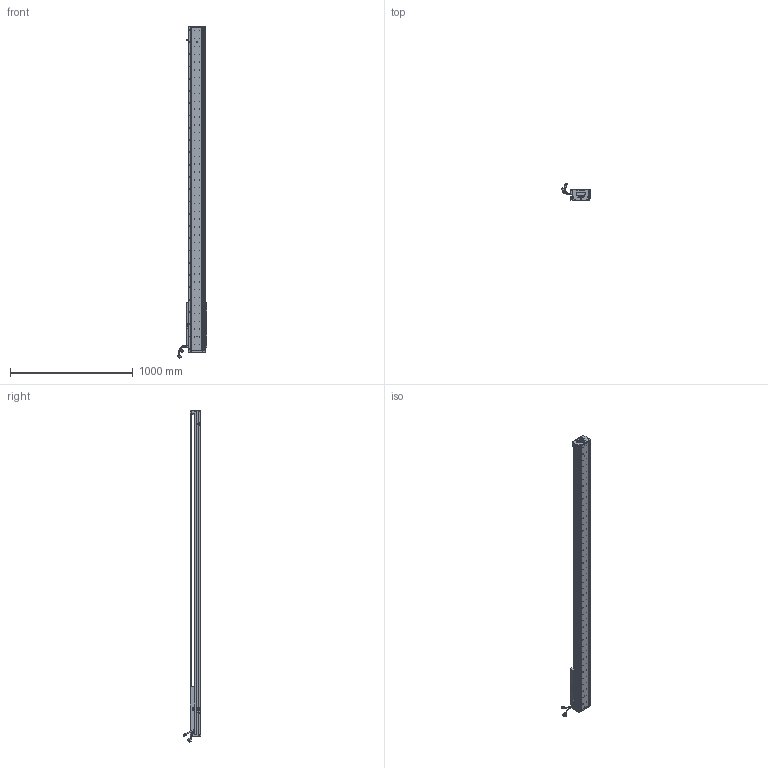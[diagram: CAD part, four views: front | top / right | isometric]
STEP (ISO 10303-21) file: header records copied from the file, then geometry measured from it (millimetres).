
FILE_DESCRIPTION (( 'STEP AP203' ), '1' );
FILE_NAME ('Z5-RY140D-1-L500-B-K.SLDASM_2200.step', '2021-05-17T08:39:12', ( '盈信电脑' ), ( '东莞市道滘镇水果街19号' ), 'SwSTEP 2.0', 'SolidWorks 2016', '' );
FILE_SCHEMA (( 'CONFIG_CONTROL_DESIGN' ));
Length unit declared in the file: millimetre
Products named in the file (36): SCREW-M1.6-1; 080黍杅芛假蚾釱21遴; SCALE-Part-1; 140蚥薯蝶輸; HARNESS-Part-2; 榋妏寠巭燃_暯_M2_2; 詩湍狟揤裔; HARNESS; LABEL; SHIELDPLATE; SEAL; Z5-RY140圉猾敕臏賑輸(21遴); SCALE; Z-140詩湍傷裔啣; COVER-Part-1; 140雄赽晤鎢ん堤盄; 覜茼ん672; SCREW-M1.6; SEAL-Part-1; Z5-RY140-L500詩湍100mm遵_2200; Z-RY140感应器672光电感应片; SCREW-M1.7; LABEL-Part-1; PSLH080_PSLF2; SCREW-M1.6-2; COVER; PBU_SHEET; SCALE-Part-2; Z5-RY140D-1-L500-B-K.SLDASM_2200; SCREW-M1.7-1; 詩湍奻揤裔; HARNESS-Part-1; Z5-RY140-L500直线电机模组底座_2200; SCREW-M1.6-3; HOLDER0; 140-Z-臏賑輸盄裔(21遴)
Assembly tree (41 placements, depth 4):
  Z5-RY140D-1-L500-B-K.SLDASM_2200
    Z5-RY140-L500直线电机模组底座_2200
    Z-RY140感应器672光电感应片
    Z5-RY140圉猾敕臏賑輸(21遴)
    覜茼ん672  x3
    Z5-RY140-L500詩湍100mm遵_2200
    PSLH080_PSLF2
      SCALE
        SCALE-Part-1
        SCALE-Part-2
      HARNESS
        HARNESS-Part-1
        HARNESS-Part-2
      LABEL
        LABEL-Part-1
      COVER
        COVER-Part-1
      SEAL
        SEAL-Part-1
      榋妏寠巭燃_暯_M2_2
      SHIELDPLATE
      SCREW-M1.7
      SCREW-M1.7-1
      PBU_SHEET
      SCREW-M1.6
      SCREW-M1.6-1
      SCREW-M1.6-2
      SCREW-M1.6-3
      HOLDER0
    080黍杅芛假蚾釱21遴
    140-Z-臏賑輸盄裔(21遴)
    Z-140詩湍傷裔啣  x2
    詩湍狟揤裔  x2
    詩湍奻揤裔  x2
    140蚥薯蝶輸  x2
    140雄赽晤鎢ん堤盄
Bounding box: 239.79 x 143.88 x 2705.87 mm (x, y, z)
Volume: 9045221.5 mm3; surface area: 2319030.1 mm2
Topology: 36 solids, 36 shells, 4246 faces, 11562 edges, 7331 vertices
Faces by surface type: cylinder 2324, plane 1394, cone 406, torus 69, bspline 53
Entity records: 135282 total; most frequent: CARTESIAN_POINT 38231, ORIENTED_EDGE 20036, DIRECTION 18562, EDGE_CURVE 10018, AXIS2_PLACEMENT_3D 6926, VERTEX_POINT 6499, LINE 4710, VECTOR 4710
